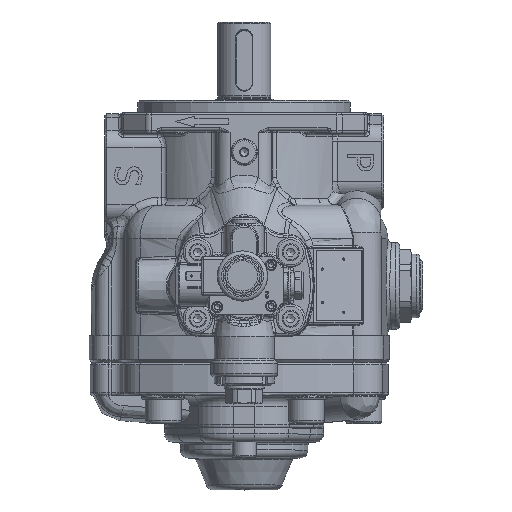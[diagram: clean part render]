
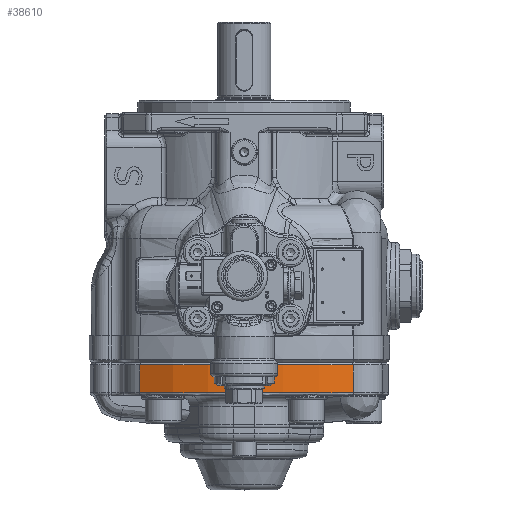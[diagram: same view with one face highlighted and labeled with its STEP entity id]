
A CAD part, top view. The second image highlights one B-rep face of the part: STEP entity #38610.
In plain terms, the highlighted cylindrical face has radius 161 mm (diameter 322 mm), a partial arc.
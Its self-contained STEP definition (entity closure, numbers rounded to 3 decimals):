
#2139=LINE('',#63732,#4382);
#2140=LINE('',#63736,#4383);
#4382=VECTOR('',#47903,10.);
#4383=VECTOR('',#47908,10.);
#5723=CYLINDRICAL_SURFACE('',#41470,161.);
#7810=FACE_OUTER_BOUND('',#10129,.T.);
#10129=EDGE_LOOP('',(#28185,#28186,#28187,#28188));
#13245=CIRCLE('',#41419,161.);
#13274=CIRCLE('',#41471,161.);
#16130=VERTEX_POINT('',#63600);
#16131=VERTEX_POINT('',#63602);
#16167=VERTEX_POINT('',#63731);
#16168=VERTEX_POINT('',#63735);
#20401=EDGE_CURVE('',#16130,#16131,#13245,.T.);
#20460=EDGE_CURVE('',#16131,#16167,#2139,.T.);
#20462=EDGE_CURVE('',#16130,#16168,#2140,.T.);
#20463=EDGE_CURVE('',#16167,#16168,#13274,.T.);
#28185=ORIENTED_EDGE('',*,*,#20401,.F.);
#28186=ORIENTED_EDGE('',*,*,#20462,.T.);
#28187=ORIENTED_EDGE('',*,*,#20463,.F.);
#28188=ORIENTED_EDGE('',*,*,#20460,.F.);
#38610=ADVANCED_FACE('',(#7810),#5723,.T.);
#41419=AXIS2_PLACEMENT_3D('',#63603,#47776,#47777);
#41470=AXIS2_PLACEMENT_3D('',#63734,#47906,#47907);
#41471=AXIS2_PLACEMENT_3D('',#63737,#47909,#47910);
#47776=DIRECTION('center_axis',(0.,1.,0.));
#47777=DIRECTION('ref_axis',(-0.527,0.,0.85));
#47903=DIRECTION('',(0.,-1.,0.));
#47906=DIRECTION('center_axis',(0.,-1.,0.));
#47907=DIRECTION('ref_axis',(0.527,0.,-0.85));
#47908=DIRECTION('',(0.,-1.,0.));
#47909=DIRECTION('center_axis',(0.,-1.,0.));
#47910=DIRECTION('ref_axis',(-0.032,0.,0.999));
#63600=CARTESIAN_POINT('',(-75.133,-98.812,84.937));
#63602=CARTESIAN_POINT('',(85.564,-98.812,90.06));
#63603=CARTESIAN_POINT('Origin',(9.661,-98.812,-51.925));
#63731=CARTESIAN_POINT('',(85.564,-119.812,90.06));
#63732=CARTESIAN_POINT('',(85.564,-96.812,90.06));
#63734=CARTESIAN_POINT('Origin',(9.661,-96.812,-51.925));
#63735=CARTESIAN_POINT('',(-75.133,-119.812,84.937));
#63736=CARTESIAN_POINT('',(-75.133,-96.812,84.937));
#63737=CARTESIAN_POINT('Origin',(9.661,-119.812,-51.925));
